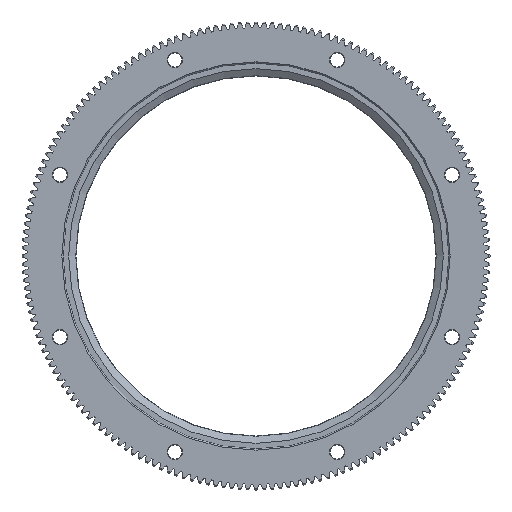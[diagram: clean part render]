
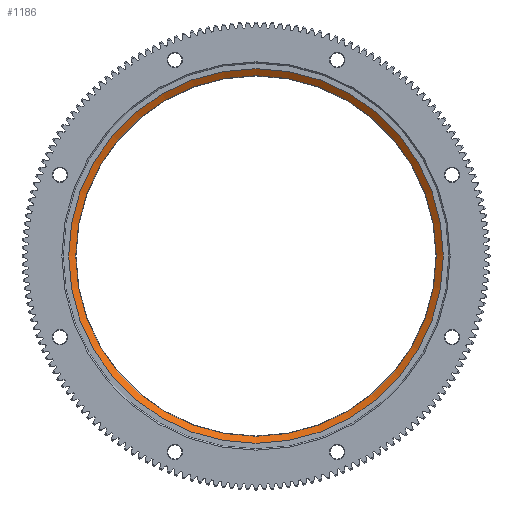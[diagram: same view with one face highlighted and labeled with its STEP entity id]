
A CAD part, front view. The second image highlights one B-rep face of the part: STEP entity #1186.
In plain terms, the highlighted conical face has half-angle 55 degrees and reference radius 70.215 mm.
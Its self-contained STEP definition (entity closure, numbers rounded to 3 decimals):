
#1186 = ADVANCED_FACE( '', ( #3463, #3464 ), #3465, .F. );
#3463 = FACE_OUTER_BOUND( '', #5765, .T. );
#3464 = FACE_BOUND( '', #5766, .T. );
#3465 = CONICAL_SURFACE( '', #5767, 70.215, 0.96 );
#5765 = EDGE_LOOP( '', ( #14776 ) );
#5766 = EDGE_LOOP( '', ( #14777 ) );
#5767 = AXIS2_PLACEMENT_3D( '', #14778, #14779, #14780 );
#14776 = ORIENTED_EDGE( '', *, *, #19023, .T. );
#14777 = ORIENTED_EDGE( '', *, *, #19022, .F. );
#14778 = CARTESIAN_POINT( '', ( 0., 9.59, 0. ) );
#14779 = DIRECTION( '', ( 0., -1., 0. ) );
#14780 = DIRECTION( '', ( 0., 0., -1. ) );
#19022 = EDGE_CURVE( '', #24511, #24511, #24512, .T. );
#19023 = EDGE_CURVE( '', #24513, #24513, #24514, .T. );
#24511 = VERTEX_POINT( '', #33423 );
#24512 = CIRCLE( '', #33424, 70.215 );
#24513 = VERTEX_POINT( '', #33425 );
#24514 = CIRCLE( '', #33426, 72.843 );
#33423 = CARTESIAN_POINT( '', ( 0., 9.59, -70.215 ) );
#33424 = AXIS2_PLACEMENT_3D( '', #37531, #37532, #37533 );
#33425 = CARTESIAN_POINT( '', ( 0., 7.75, -72.843 ) );
#33426 = AXIS2_PLACEMENT_3D( '', #37534, #37535, #37536 );
#37531 = CARTESIAN_POINT( '', ( 0., 9.59, 0. ) );
#37532 = DIRECTION( '', ( 0., -1., 0. ) );
#37533 = DIRECTION( '', ( 0., 0., -1. ) );
#37534 = CARTESIAN_POINT( '', ( 0., 7.75, 0. ) );
#37535 = DIRECTION( '', ( 0., -1., 0. ) );
#37536 = DIRECTION( '', ( 0., 0., -1. ) );
